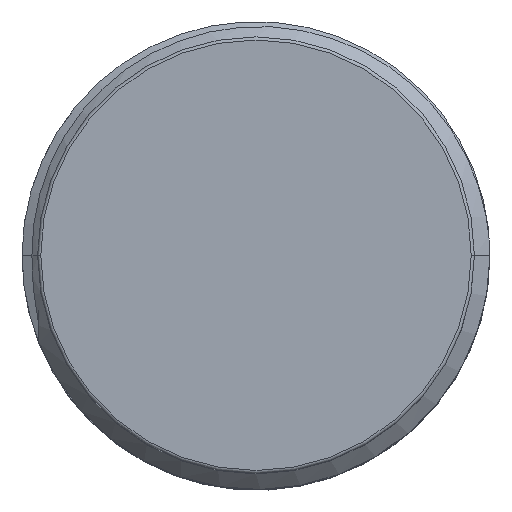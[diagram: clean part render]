
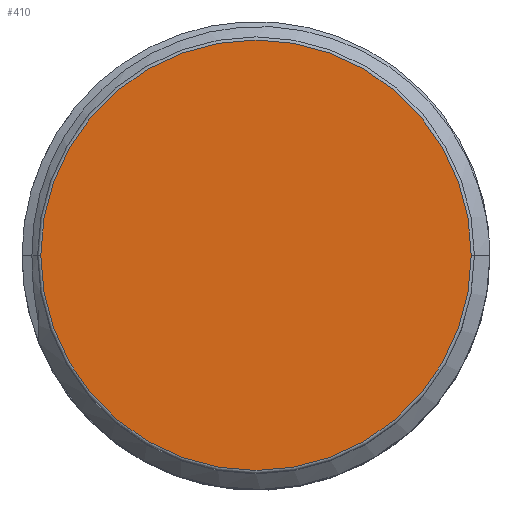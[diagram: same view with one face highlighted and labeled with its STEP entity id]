
A CAD part, top view. The second image highlights one B-rep face of the part: STEP entity #410.
In plain terms, the highlighted planar face has unit normal (0, 0, 1).
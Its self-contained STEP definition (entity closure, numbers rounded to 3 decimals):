
#211 = PLANE ( 'NONE',  #4165 ) ;
#410 = ADVANCED_FACE ( 'NONE', ( #861 ), #211, .T. ) ;
#458 = EDGE_CURVE ( 'NONE', #7025, #884, #2067, .T. ) ;
#644 = AXIS2_PLACEMENT_3D ( 'NONE', #5274, #7720, #2172 ) ;
#861 = FACE_OUTER_BOUND ( 'NONE', #5464, .T. ) ;
#884 = VERTEX_POINT ( 'NONE', #2983 ) ;
#1059 = ORIENTED_EDGE ( 'NONE', *, *, #458, .T. ) ;
#1914 = ORIENTED_EDGE ( 'NONE', *, *, #4216, .T. ) ;
#2067 = CIRCLE ( 'NONE', #644, 13.8 ) ;
#2172 = DIRECTION ( 'NONE',  ( 1., 0., 0. ) ) ;
#2830 = DIRECTION ( 'NONE',  ( 1., 0., 0. ) ) ;
#2983 = CARTESIAN_POINT ( 'NONE',  ( 13.8, 0., 53. ) ) ;
#3438 = CARTESIAN_POINT ( 'NONE',  ( 0., 0., 53. ) ) ;
#3871 = DIRECTION ( 'NONE',  ( 1., 0., 0. ) ) ;
#4165 = AXIS2_PLACEMENT_3D ( 'NONE', #3438, #6581, #2830 ) ;
#4216 = EDGE_CURVE ( 'NONE', #884, #7025, #5190, .T. ) ;
#5028 = DIRECTION ( 'NONE',  ( 0., 0., 1. ) ) ;
#5190 = CIRCLE ( 'NONE', #5587, 13.8 ) ;
#5274 = CARTESIAN_POINT ( 'NONE',  ( 0., 0., 53. ) ) ;
#5464 = EDGE_LOOP ( 'NONE', ( #1914, #1059 ) ) ;
#5587 = AXIS2_PLACEMENT_3D ( 'NONE', #7559, #5028, #3871 ) ;
#6279 = CARTESIAN_POINT ( 'NONE',  ( -13.8, 0., 53. ) ) ;
#6581 = DIRECTION ( 'NONE',  ( 0., 0., 1. ) ) ;
#7025 = VERTEX_POINT ( 'NONE', #6279 ) ;
#7559 = CARTESIAN_POINT ( 'NONE',  ( 0., 0., 53. ) ) ;
#7720 = DIRECTION ( 'NONE',  ( 0., 0., 1. ) ) ;
